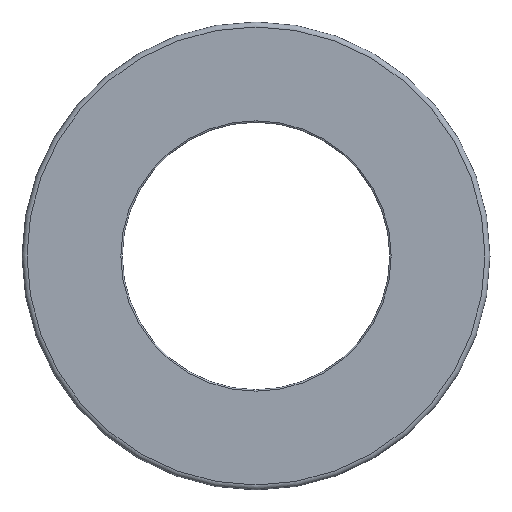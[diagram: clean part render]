
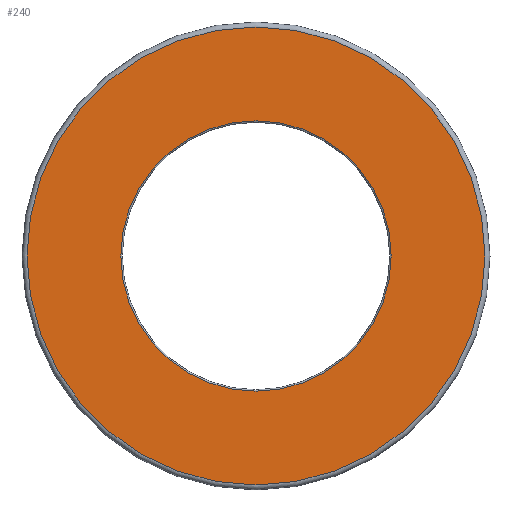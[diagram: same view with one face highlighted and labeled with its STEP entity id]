
A CAD part, left-side view. The second image highlights one B-rep face of the part: STEP entity #240.
In plain terms, the highlighted planar face has unit normal (-1, 0, 0).
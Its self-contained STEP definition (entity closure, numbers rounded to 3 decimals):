
#20=FACE_BOUND('',#66,.T.);
#24=PLANE('',#288);
#48=FACE_OUTER_BOUND('',#65,.T.);
#65=EDGE_LOOP('',(#181));
#66=EDGE_LOOP('',(#182));
#88=CIRCLE('',#287,13.7);
#89=CIRCLE('',#289,8.088);
#113=VERTEX_POINT('',#432);
#114=VERTEX_POINT('',#436);
#138=EDGE_CURVE('',#113,#113,#88,.T.);
#139=EDGE_CURVE('',#114,#114,#89,.T.);
#181=ORIENTED_EDGE('',*,*,#138,.F.);
#182=ORIENTED_EDGE('',*,*,#139,.T.);
#240=ADVANCED_FACE('',(#48,#20),#24,.T.);
#287=AXIS2_PLACEMENT_3D('',#434,#345,#346);
#288=AXIS2_PLACEMENT_3D('',#435,#347,#348);
#289=AXIS2_PLACEMENT_3D('',#437,#349,#350);
#345=DIRECTION('center_axis',(1.,0.,0.));
#346=DIRECTION('ref_axis',(0.,-1.,0.));
#347=DIRECTION('center_axis',(-1.,0.,0.));
#348=DIRECTION('ref_axis',(0.,0.,1.));
#349=DIRECTION('center_axis',(1.,0.,0.));
#350=DIRECTION('ref_axis',(0.,1.,0.));
#432=CARTESIAN_POINT('',(0.,0.,13.7));
#434=CARTESIAN_POINT('Origin',(0.,0.,
0.));
#435=CARTESIAN_POINT('Origin',(0.,11.044,0.));
#436=CARTESIAN_POINT('',(0.,0.,8.088));
#437=CARTESIAN_POINT('Origin',(0.,0.,
0.));
